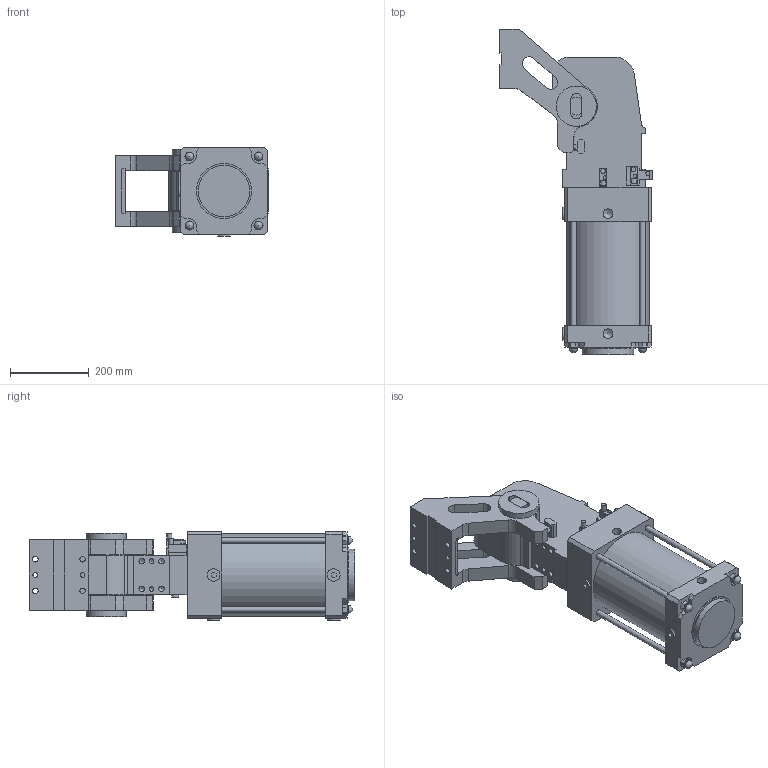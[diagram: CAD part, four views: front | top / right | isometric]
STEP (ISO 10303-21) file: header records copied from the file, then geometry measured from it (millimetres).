
FILE_DESCRIPTION(/* description */ (''),/* implementation_level */ '2;1');
FILE_NAME(/* name */ 'S:\Tom\INVENTOR FILES\AUTOMOTIVE\VEP\DUMP UNITS\C05.P015 RFM.2-RF.2\C05.P015 RFM.2-RF.2\RFM200\SATs\XPUZ200.2-129-3-ESL-P-G-X.stp',/* time_stamp */ '2018-07-29T18:29:06+01:00',/* author */ ('carl'),/* organization */ (''),/* preprocessor_version */ 'ST-DEVELOPER v16.13',/* originating_system */ 'Autodesk Inventor 2018',/* authorisation */ '');
FILE_SCHEMA (('AUTOMOTIVE_DESIGN { 1 0 10303 214 3 1 1 }'));
Length unit declared in the file: millimetre
Products named in the file (11): XPUZ200.2-129-3-ESL-P-G-X_TOP; XPUZ200; XPUZ200_1; XPUZ200_2; XPUZ200_3; XPUZ200_4; XPUZ200_5; XPUZ200_6; XPUZ200_7; XPUZ200_8; XPUZ200_9
Assembly tree (10 placements, depth 2):
  XPUZ200.2-129-3-ESL-P-G-X_TOP
    XPUZ200
    XPUZ200_1
    XPUZ200_2
    XPUZ200_3
    XPUZ200_4
    XPUZ200_5
    XPUZ200_6
    XPUZ200_7
    XPUZ200_8
    XPUZ200_9
Bounding box: 388 x 825 x 225 mm (x, y, z)
Volume: 26152543.5 mm3; surface area: 1086937.3 mm2
Topology: 10 solids, 10 shells, 416 faces, 1038 edges, 683 vertices
Faces by surface type: plane 288, cylinder 106, cone 18, sphere 4
Full cylindrical faces by diameter (mm): 5.5 x2, 8.5 x2, 10 x3, 10.2 x1, 11.8 x2, 12 x8, 13 x1, 14 x16, 18 x1, 21 x4, 24.5 x6, 26 x4, 32 x4, 45 x1, 50.5 x1, 60 x2, 102 x2, 131 x1, 140 x1, 210 x1
Entity records: 12081 total; most frequent: DIRECTION 2016, CARTESIAN_POINT 2015, ORIENTED_EDGE 1848, EDGE_CURVE 924, LINE 706, VECTOR 706, AXIS2_PLACEMENT_3D 655, VERTEX_POINT 654
